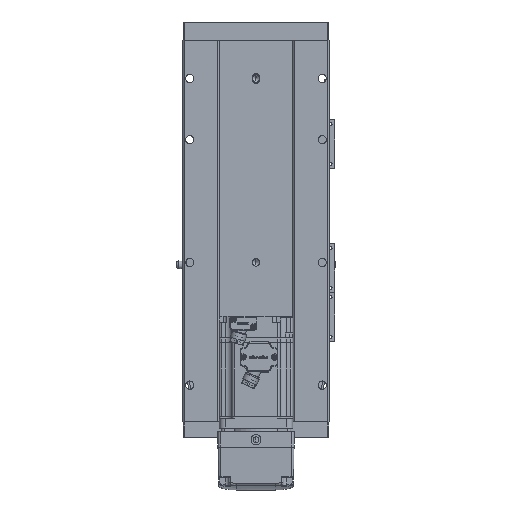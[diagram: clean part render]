
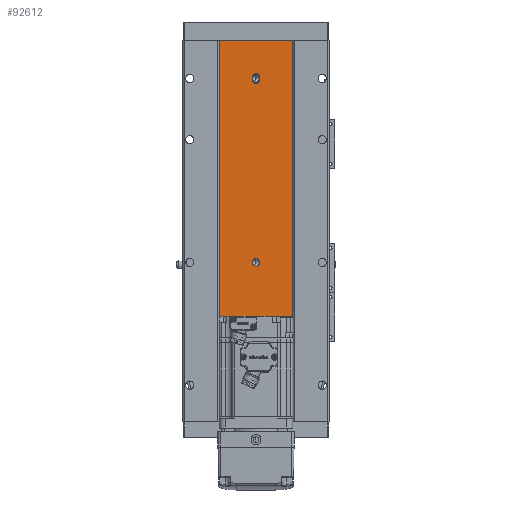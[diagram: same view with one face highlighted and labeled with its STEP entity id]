
A CAD part, front view. The second image highlights one B-rep face of the part: STEP entity #92612.
In plain terms, the highlighted planar face has unit normal (0, -1, 0).
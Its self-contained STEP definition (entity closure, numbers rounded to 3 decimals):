
#885 = DIRECTION ( 'NONE',  ( 0., -1., 0. ) ) ;
#1539 = CARTESIAN_POINT ( 'NONE',  ( 0., 1., 27. ) ) ;
#1678 = CIRCLE ( 'NONE', #85807, 3. ) ;
#6276 = AXIS2_PLACEMENT_3D ( 'NONE', #28500, #54422, #31506 ) ;
#6687 = CARTESIAN_POINT ( 'NONE',  ( -30., 1., 311. ) ) ;
#8211 = LINE ( 'NONE', #15016, #47127 ) ;
#8667 = CARTESIAN_POINT ( 'NONE',  ( 0., 1., 130. ) ) ;
#9623 = EDGE_CURVE ( 'NONE', #48681, #17143, #33573, .T. ) ;
#11435 = CARTESIAN_POINT ( 'NONE',  ( 0., 1., 281. ) ) ;
#13372 = VERTEX_POINT ( 'NONE', #79300 ) ;
#13841 = FACE_BOUND ( 'NONE', #75501, .T. ) ;
#15016 = CARTESIAN_POINT ( 'NONE',  ( 30., 1., 311. ) ) ;
#17143 = VERTEX_POINT ( 'NONE', #82156 ) ;
#17332 = DIRECTION ( 'NONE',  ( 0., -1., 0. ) ) ;
#17494 = DIRECTION ( 'NONE',  ( 1., 0., 0. ) ) ;
#18086 = VECTOR ( 'NONE', #69730, 1000. ) ;
#18222 = CARTESIAN_POINT ( 'NONE',  ( -30., 1., 0. ) ) ;
#18243 = AXIS2_PLACEMENT_3D ( 'NONE', #11435, #62181, #53133 ) ;
#19374 = DIRECTION ( 'NONE',  ( 0., 0., -1. ) ) ;
#21014 = AXIS2_PLACEMENT_3D ( 'NONE', #67043, #885, #26434 ) ;
#21598 = CARTESIAN_POINT ( 'NONE',  ( 3., 1., 279. ) ) ;
#21874 = FACE_BOUND ( 'NONE', #88607, .T. ) ;
#25491 = CARTESIAN_POINT ( 'NONE',  ( -30., 1., 311. ) ) ;
#25929 = DIRECTION ( 'NONE',  ( 0., 0., -1. ) ) ;
#26021 = VERTEX_POINT ( 'NONE', #102320 ) ;
#26434 = DIRECTION ( 'NONE',  ( 0., 0., -1. ) ) ;
#27078 = VERTEX_POINT ( 'NONE', #85336 ) ;
#28139 = VERTEX_POINT ( 'NONE', #77817 ) ;
#28326 = VERTEX_POINT ( 'NONE', #107361 ) ;
#28500 = CARTESIAN_POINT ( 'NONE',  ( 0., 1., 279. ) ) ;
#31506 = DIRECTION ( 'NONE',  ( 0., 0., -1. ) ) ;
#32814 = ORIENTED_EDGE ( 'NONE', *, *, #9623, .F. ) ;
#33072 = CARTESIAN_POINT ( 'NONE',  ( -30., 1., 311. ) ) ;
#33573 = LINE ( 'NONE', #70974, #72504 ) ;
#34545 = ORIENTED_EDGE ( 'NONE', *, *, #105491, .F. ) ;
#35244 = FACE_BOUND ( 'NONE', #85554, .T. ) ;
#35482 = ORIENTED_EDGE ( 'NONE', *, *, #73344, .F. ) ;
#35524 = LINE ( 'NONE', #78746, #18086 ) ;
#36065 = DIRECTION ( 'NONE',  ( 0., 0., 1. ) ) ;
#36591 = VECTOR ( 'NONE', #17494, 1000. ) ;
#37212 = CARTESIAN_POINT ( 'NONE',  ( 0., 1., 130. ) ) ;
#38637 = ORIENTED_EDGE ( 'NONE', *, *, #77251, .F. ) ;
#42522 = EDGE_CURVE ( 'NONE', #28326, #48681, #45779, .T. ) ;
#42781 = DIRECTION ( 'NONE',  ( 0., 0., 1. ) ) ;
#43099 = EDGE_CURVE ( 'NONE', #13372, #77717, #1678, .T. ) ;
#43605 = DIRECTION ( 'NONE',  ( 0., -1., 0. ) ) ;
#44217 = DIRECTION ( 'NONE',  ( 0., 0., -1. ) ) ;
#44547 = CARTESIAN_POINT ( 'NONE',  ( 0., 1., 30. ) ) ;
#45203 = ORIENTED_EDGE ( 'NONE', *, *, #108754, .F. ) ;
#45779 = CIRCLE ( 'NONE', #21014, 3. ) ;
#46779 = AXIS2_PLACEMENT_3D ( 'NONE', #44547, #71174, #19374 ) ;
#47127 = VECTOR ( 'NONE', #91210, 1000. ) ;
#48681 = VERTEX_POINT ( 'NONE', #21598 ) ;
#50462 = ORIENTED_EDGE ( 'NONE', *, *, #68854, .T. ) ;
#51176 = ORIENTED_EDGE ( 'NONE', *, *, #76605, .F. ) ;
#52851 = VERTEX_POINT ( 'NONE', #87674 ) ;
#53133 = DIRECTION ( 'NONE',  ( 0., 0., -1. ) ) ;
#54422 = DIRECTION ( 'NONE',  ( 0., -1., 0. ) ) ;
#57206 = CIRCLE ( 'NONE', #6276, 3. ) ;
#57271 = VECTOR ( 'NONE', #82282, 1000. ) ;
#58551 = ORIENTED_EDGE ( 'NONE', *, *, #85116, .F. ) ;
#59229 = ORIENTED_EDGE ( 'NONE', *, *, #43099, .F. ) ;
#59661 = EDGE_CURVE ( 'NONE', #60557, #28326, #57206, .T. ) ;
#59888 = EDGE_CURVE ( 'NONE', #109520, #60557, #82611, .T. ) ;
#60557 = VERTEX_POINT ( 'NONE', #63245 ) ;
#62181 = DIRECTION ( 'NONE',  ( 0., -1., 0. ) ) ;
#63245 = CARTESIAN_POINT ( 'NONE',  ( -3., 1., 279. ) ) ;
#65734 = AXIS2_PLACEMENT_3D ( 'NONE', #86413, #43605, #110803 ) ;
#66219 = FACE_OUTER_BOUND ( 'NONE', #93000, .T. ) ;
#67043 = CARTESIAN_POINT ( 'NONE',  ( 0., 1., 279. ) ) ;
#68561 = ORIENTED_EDGE ( 'NONE', *, *, #59661, .F. ) ;
#68854 = EDGE_CURVE ( 'NONE', #81810, #52851, #81378, .T. ) ;
#69730 = DIRECTION ( 'NONE',  ( 1., 0., 0. ) ) ;
#70470 = CIRCLE ( 'NONE', #46779, 3. ) ;
#70974 = CARTESIAN_POINT ( 'NONE',  ( 3., 1., 279. ) ) ;
#71174 = DIRECTION ( 'NONE',  ( 0., -1., 0. ) ) ;
#71420 = ORIENTED_EDGE ( 'NONE', *, *, #42522, .F. ) ;
#72008 = CARTESIAN_POINT ( 'NONE',  ( -3., 1., 281. ) ) ;
#72504 = VECTOR ( 'NONE', #36065, 1000. ) ;
#73344 = EDGE_CURVE ( 'NONE', #81810, #26021, #35524, .T. ) ;
#74372 = ORIENTED_EDGE ( 'NONE', *, *, #109835, .T. ) ;
#74536 = ORIENTED_EDGE ( 'NONE', *, *, #59888, .F. ) ;
#75501 = EDGE_LOOP ( 'NONE', ( #32814, #71420, #68561, #74536, #51176 ) ) ;
#76605 = EDGE_CURVE ( 'NONE', #17143, #109520, #80781, .T. ) ;
#76952 = PLANE ( 'NONE',  #111202 ) ;
#77251 = EDGE_CURVE ( 'NONE', #77717, #13372, #91301, .T. ) ;
#77717 = VERTEX_POINT ( 'NONE', #87030 ) ;
#77817 = CARTESIAN_POINT ( 'NONE',  ( 0., 1., 33. ) ) ;
#78746 = CARTESIAN_POINT ( 'NONE',  ( -30., 1., 311. ) ) ;
#79300 = CARTESIAN_POINT ( 'NONE',  ( 0., 1., 133. ) ) ;
#80405 = DIRECTION ( 'NONE',  ( 0., -1., 0. ) ) ;
#80781 = CIRCLE ( 'NONE', #18243, 3. ) ;
#81378 = LINE ( 'NONE', #33072, #57271 ) ;
#81810 = VERTEX_POINT ( 'NONE', #6687 ) ;
#82156 = CARTESIAN_POINT ( 'NONE',  ( 3., 1., 281. ) ) ;
#82282 = DIRECTION ( 'NONE',  ( 0., 0., -1. ) ) ;
#82611 = LINE ( 'NONE', #85909, #94648 ) ;
#85116 = EDGE_CURVE ( 'NONE', #26021, #27078, #8211, .T. ) ;
#85336 = CARTESIAN_POINT ( 'NONE',  ( 30., 1., 0. ) ) ;
#85554 = EDGE_LOOP ( 'NONE', ( #38637, #59229 ) ) ;
#85579 = DIRECTION ( 'NONE',  ( 0., 1., 0. ) ) ;
#85807 = AXIS2_PLACEMENT_3D ( 'NONE', #8667, #17332, #25929 ) ;
#85909 = CARTESIAN_POINT ( 'NONE',  ( -3., 1., 279. ) ) ;
#86413 = CARTESIAN_POINT ( 'NONE',  ( 0., 1., 30. ) ) ;
#86473 = AXIS2_PLACEMENT_3D ( 'NONE', #37212, #80405, #98002 ) ;
#87030 = CARTESIAN_POINT ( 'NONE',  ( 0., 1., 127. ) ) ;
#87674 = CARTESIAN_POINT ( 'NONE',  ( -30., 1., 0. ) ) ;
#88421 = VERTEX_POINT ( 'NONE', #1539 ) ;
#88607 = EDGE_LOOP ( 'NONE', ( #34545, #45203 ) ) ;
#91210 = DIRECTION ( 'NONE',  ( 0., 0., -1. ) ) ;
#91301 = CIRCLE ( 'NONE', #86473, 3. ) ;
#92612 = ADVANCED_FACE ( 'NONE', ( #13841, #35244, #21874, #66219 ), #76952, .F. ) ;
#93000 = EDGE_LOOP ( 'NONE', ( #74372, #58551, #35482, #50462 ) ) ;
#94648 = VECTOR ( 'NONE', #44217, 1000. ) ;
#98002 = DIRECTION ( 'NONE',  ( 0., 0., -1. ) ) ;
#102320 = CARTESIAN_POINT ( 'NONE',  ( 30., 1., 311. ) ) ;
#105139 = CIRCLE ( 'NONE', #65734, 3. ) ;
#105491 = EDGE_CURVE ( 'NONE', #88421, #28139, #70470, .T. ) ;
#107361 = CARTESIAN_POINT ( 'NONE',  ( 0., 1., 276. ) ) ;
#107771 = LINE ( 'NONE', #18222, #36591 ) ;
#108754 = EDGE_CURVE ( 'NONE', #28139, #88421, #105139, .T. ) ;
#109520 = VERTEX_POINT ( 'NONE', #72008 ) ;
#109835 = EDGE_CURVE ( 'NONE', #52851, #27078, #107771, .T. ) ;
#110803 = DIRECTION ( 'NONE',  ( 0., 0., -1. ) ) ;
#111202 = AXIS2_PLACEMENT_3D ( 'NONE', #25491, #85579, #42781 ) ;
